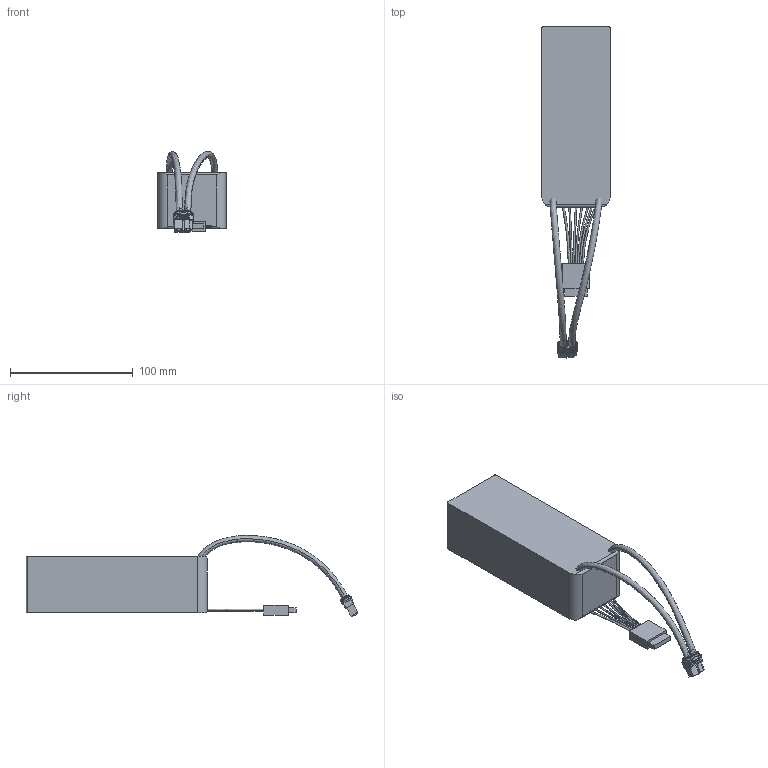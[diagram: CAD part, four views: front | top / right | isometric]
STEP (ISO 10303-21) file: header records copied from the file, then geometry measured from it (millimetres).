
FILE_DESCRIPTION(('CATIA V5 STEP Exchange','CAx-IF Rec.Pracs.--- Model Styling and Organization---1.4--- 2014-01-23','CAx-IF Rec.Pracs.---3D Tessellated Data Validation Properties---0.5---2014-09-14'),'2;1');
FILE_NAME('L:\Engineering Dept\CAD Office\08 Catia PDM\Work in Progress\STP files\Tattu_6S_6000mAh_35C.stp','2024-02-07T12:24:20+00:00',('none'),('none'),'CATIA Version 5-6 Release 2018 SP6','CATIA V5 STEP AP242','none');
FILE_SCHEMA(('AP242_MANAGED_MODEL_BASED_3D_ENGINEERING_MIM_LF {1 0 10303 442 1 1 4}'));
Length unit declared in the file: millimetre
Products named in the file (5): Tattu_6S_6000mAh_35C; Battery 6000 6S; XT60_Female; Housing; Contact
Assembly tree (5 placements, depth 3):
  Tattu_6S_6000mAh_35C
    Battery 6000 6S
    XT60_Female
      Housing
      Contact  x2
Bounding box: 55.5 x 270.86 x 66.2 mm (x, y, z)
Volume: 388515.9 mm3; surface area: 45257.1 mm2
Topology: 7 solids, 7 shells, 272 faces, 741 edges, 507 vertices
Faces by surface type: plane 161, bspline 75, cylinder 36
Entity records: 10794 total; most frequent: CARTESIAN_POINT 4748, ORIENTED_EDGE 1430, DIRECTION 738, EDGE_CURVE 715, VERTEX_POINT 489, VECTOR 375, LINE 375, EDGE_LOOP 288
